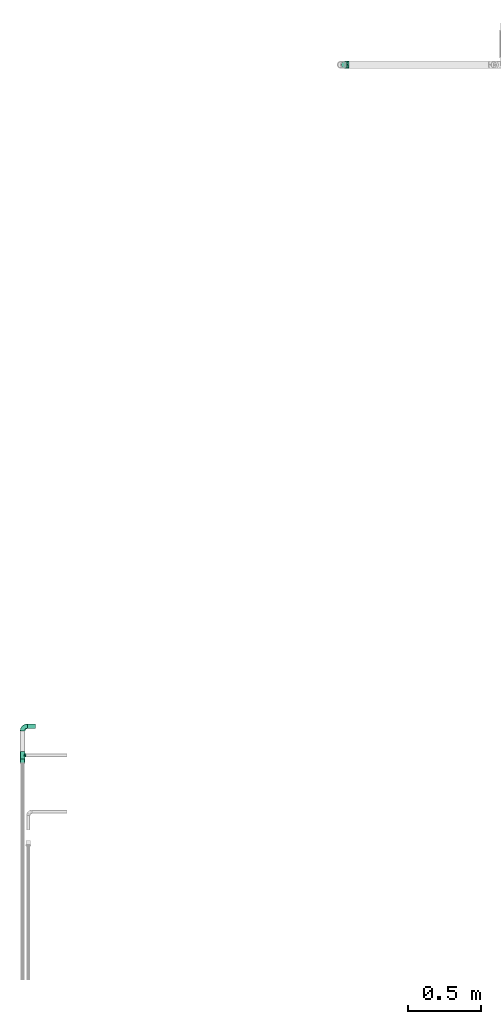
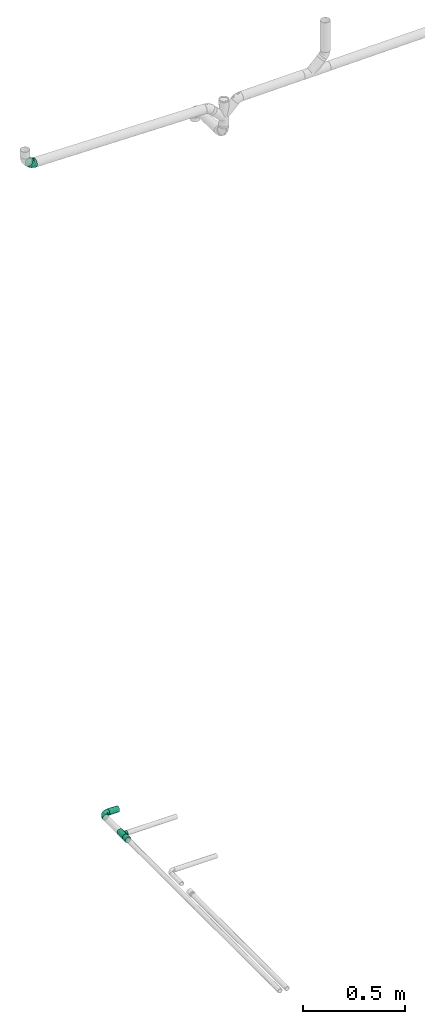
# One storey, part 5 of 13: 3 flow fittings, 2 flow segments.
"""IFC2X3 building model written with IfcOpenShell, lengths in millimetres."""

from ifc_helpers import new_model, entity, si_unit, converted_unit, derived_unit, direction, frame, origin_with_axes, origin_2d_with_axis, place, context, subcontext, project, spatial, hollow_circle, extrude, open_shell, surface_model, source, transform, mapped, type_object, element, save


model = new_model("IFC2X3")

# Units and contexts
model_context = context("Model", 3, precision=0.01, world=frame((0.0, 4.29681676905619e-09, 0.0)), true_north=direction((4.01073788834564e-13, 1.0)))
plan_context = context("Plan", 3, precision=0.01, world=frame((0.0, 4.29681676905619e-09, 0.0)), true_north=direction((4.01073788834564e-13, 1.0)))
body_context = subcontext(model_context, "Body", "Model", "MODEL_VIEW")
ifc_project = project(units=[converted_unit("PLANEANGLEUNIT", "DEGREE", entity("IfcPositiveLengthMeasure", 0.0174532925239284), si_unit("PLANEANGLEUNIT", "RADIAN"), dimensions=[0, 0, 0, 0, 0, 0, 0]), si_unit("AREAUNIT", "SQUARE_METRE"), si_unit("LENGTHUNIT", "METRE", prefix="MILLI"), si_unit("MASSUNIT", "GRAM", prefix="KILO"), si_unit("POWERUNIT", "WATT"), si_unit("PRESSUREUNIT", "PASCAL", prefix="KILO"), si_unit("FORCEUNIT", "NEWTON", prefix="KILO"), si_unit("ELECTRICVOLTAGEUNIT", "VOLT"), si_unit("ELECTRICCURRENTUNIT", "AMPERE"), si_unit("THERMODYNAMICTEMPERATUREUNIT", "DEGREE_CELSIUS"), si_unit("TIMEUNIT", "SECOND"), si_unit("VOLUMEUNIT", "CUBIC_METRE"), derived_unit("LINEARVELOCITYUNIT", [(si_unit("LENGTHUNIT", "METRE"), 1), (si_unit("TIMEUNIT", "SECOND"), -1)]), derived_unit("VOLUMETRICFLOWRATEUNIT", [(si_unit("VOLUMEUNIT", "CUBIC_METRE"), 1), (si_unit("TIMEUNIT", "SECOND"), -1)]), derived_unit("THERMALTRANSMITTANCEUNIT", [(si_unit("POWERUNIT", "WATT"), 1), (si_unit("THERMODYNAMICTEMPERATUREUNIT", "KELVIN"), -1), (si_unit("AREAUNIT", "SQUARE_METRE"), -1)]), derived_unit("SOUNDPRESSUREUNIT", [(si_unit("PRESSUREUNIT", "PASCAL"), 1)])], contexts=[model_context, plan_context])

# Site, building, storey
site_placement = place(None, frame((0.0, -4.29681676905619e-09, 0.0), z_axis=(0.0, 0.0, 1.0), x_axis=(1.0, 0.0, 0.0)))
site = spatial("IfcSite", under=ifc_project, at=site_placement, Name="ENGM", CompositionType="ELEMENT")
building_placement = place(site_placement, frame((0.0, 4.29681676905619e-09, 0.0), z_axis=(0.0, 0.0, 1.0), x_axis=(1.0, 0.0, 0.0)))
building = spatial("IfcBuilding", under=site, at=building_placement, Name="TI", CompositionType="ELEMENT")
storey_placement = place(building_placement, frame((0.0, 0.0, 210900.0), z_axis=(0.0, 0.0, 1.0), x_axis=(1.0, 0.0, 0.0)))
storey = spatial("IfcBuildingStorey", under=building, at=storey_placement, Name="Nivå F", CompositionType="ELEMENT", Elevation=210900.0)

# Flow fittings
pipe_fitting_type_1 = type_object("IfcPipeFittingType", Name="magi_pipe_fe_tee_centric_90_NOR", PredefinedType="JUNCTION")
shared_shape_1 = source(origin_with_axes(), body_context, "Body", "SurfaceModel", [
    surface_model("IfcShellBasedSurfaceModel", [(-26.8, -14.63583, -8.45), (-26.8, -16.32415, 4.37404), (-26.8, 0.0, -16.9), (-26.8, 8.45, -14.63583), (-26.8, 4.37404, -16.32415), (-26.8, 14.63583, -8.45), (-26.8, 16.32415, -4.37404), (-26.8, 11.9501, -11.9501), (-26.8, 8.45, 14.63583), (-26.8, -4.37404, -16.32415), (-26.8, -8.45, -14.63583), (-26.8, -11.9501, -11.9501), (-26.8, -16.32415, -4.37404), (-26.8, -16.9, 0.0), (-26.8, 16.32415, 4.37404), (-26.8, 14.63583, 8.45), (-26.8, -8.45, 14.63583), (-26.8, 11.9501, 11.9501), (-26.8, 4.37404, 16.32415), (-26.8, 0.0, 16.9), (-26.8, -11.9501, 11.9501), (-26.8, -14.63583, 8.45), (-26.8, -4.37404, 16.32415), (-26.8, 16.9, 0.0), (26.8, 4.37404, -16.32415), (26.8, -16.32415, -4.37404), (26.8, 0.0, -16.9), (26.8, 14.63583, -8.45), (26.8, 8.45, -14.63583), (26.8, 8.45, 14.63583), (26.8, 11.9501, -11.9501), (26.8, -8.45, -14.63583), (26.8, -4.37404, -16.32415), (26.8, -11.9501, -11.9501), (26.8, -14.63583, -8.45), (26.8, -16.9, 0.0), (26.8, 16.32415, -4.37404), (26.8, 16.32415, 4.37404), (26.8, 14.63583, 8.45), (26.8, -16.32415, 4.37404), (26.8, 11.9501, 11.9501), (26.8, -8.45, 14.63583), (26.8, 4.37404, 16.32415), (26.8, -14.63583, 8.45), (26.8, -11.9501, 11.9501), (26.8, 0.0, 16.9), (26.8, -4.37404, 16.32415), (26.8, 16.9, 0.0), (13.4, -16.9, 0.0), (12.51826, -16.20978, 4.7805), (10.16237, -14.46802, 8.7342), (6.75997, -12.31857, 11.56991), (2.4399, -10.58315, 13.176), (-13.4, -16.9, 0.0), (-12.51876, -16.21016, 4.7792), (-6.76097, -12.31912, 11.56932), (-2.44418, -10.58414, 13.1752), (-10.16446, -14.46949, 8.73177), (2.4399, -10.58315, -13.176), (10.16237, -14.46802, -8.7342), (6.75997, -12.31857, -11.56991), (12.51826, -16.20978, -4.7805), (-2.44418, -10.58414, -13.1752), (-6.76097, -12.31912, -11.56932), (-10.16446, -14.46949, -8.73177), (-12.51876, -16.21016, -4.7792), (9.47523, -25.35, -9.47523), (0.0, -25.35, -13.4), (3.46818, -25.35, -12.94341), (6.7, -25.35, -11.60474), (11.60474, -25.35, -6.7), (12.94341, -25.35, -3.46818), (-12.94341, -25.35, 3.46818), (-12.94341, -25.35, -3.46818), (-3.46818, -25.35, -12.94341), (-9.47523, -25.35, -9.47523), (-6.7, -25.35, -11.60474), (-11.60474, -25.35, -6.7), (-13.4, -25.35, 0.0), (13.4, -25.35, 0.0), (12.94341, -25.35, 3.46818), (11.60474, -25.35, 6.7), (6.7, -25.35, 11.60474), (9.47523, -25.35, 9.47523), (3.46818, -25.35, 12.94341), (-9.47523, -25.35, 9.47523), (-11.60474, -25.35, 6.7), (-6.7, -25.35, 11.60474), (-3.46818, -25.35, 12.94341), (0.0, -25.35, 13.4), (-12.95938, -16.55508, 2.3896), (12.95913, -16.55489, 2.39025), (-0.00214, -10.58364, 13.1756), (12.95913, -16.55489, -2.39025), (-0.00214, -10.58364, -13.1756), (-12.95938, -16.55508, -2.3896)], [open_shell([[[0, 1, 2]], [[3, 4, 5]], [[4, 6, 5]], [[7, 3, 5]], [[8, 4, 2]], [[9, 10, 2]], [[10, 11, 2]], [[12, 13, 0]], [[0, 2, 11]], [[13, 1, 0]], [[8, 6, 4]], [[8, 14, 6]], [[15, 14, 8]], [[2, 16, 8]], [[17, 15, 8]], [[18, 8, 19]], [[20, 16, 21]], [[1, 21, 16]], [[22, 19, 16]], [[16, 2, 1]], [[16, 19, 8]], [[6, 14, 23]], [[24, 25, 26]], [[27, 24, 28]], [[25, 24, 29]], [[27, 28, 30]], [[29, 24, 27]], [[26, 31, 32]], [[26, 33, 31]], [[26, 25, 34]], [[34, 33, 26]], [[35, 25, 29]], [[27, 36, 37]], [[27, 37, 29]], [[29, 37, 38]], [[29, 39, 35]], [[29, 38, 40]], [[41, 29, 42]], [[43, 41, 44]], [[41, 43, 39]], [[41, 45, 46]], [[41, 39, 29]], [[42, 45, 41]], [[36, 47, 37]], [[35, 39, 48]], [[49, 48, 39]], [[39, 43, 49]], [[43, 44, 50]], [[51, 50, 44]], [[52, 51, 44]], [[44, 41, 52]], [[43, 50, 49]], [[53, 54, 1]], [[1, 13, 53]], [[54, 21, 1]], [[55, 56, 20]], [[21, 57, 20]], [[57, 21, 54]], [[20, 57, 55]], [[56, 16, 20]], [[52, 16, 56]], [[19, 46, 45]], [[22, 41, 46]], [[18, 45, 42]], [[38, 37, 14]], [[17, 29, 40]], [[15, 40, 38]], [[42, 29, 8]], [[23, 37, 47]], [[16, 41, 22]], [[22, 46, 19]], [[18, 19, 45]], [[42, 8, 18]], [[8, 29, 17]], [[15, 17, 40]], [[14, 15, 38]], [[37, 23, 14]], [[41, 16, 52]], [[23, 47, 36]], [[27, 30, 7]], [[6, 36, 27]], [[26, 32, 9]], [[4, 28, 24]], [[26, 2, 24]], [[30, 28, 3]], [[10, 32, 31]], [[5, 6, 27]], [[23, 36, 6]], [[27, 7, 5]], [[7, 30, 3]], [[3, 28, 4]], [[2, 4, 24]], [[9, 2, 26]], [[32, 10, 9]], [[31, 58, 10]], [[33, 59, 60]], [[59, 33, 34]], [[60, 58, 33]], [[33, 58, 31]], [[25, 35, 48]], [[25, 61, 34]], [[61, 25, 48]], [[34, 61, 59]], [[62, 63, 11]], [[11, 64, 0]], [[64, 11, 63]], [[62, 11, 10]], [[65, 53, 12]], [[65, 12, 0]], [[12, 53, 13]], [[65, 0, 64]], [[58, 62, 10]], [[66, 67, 68]], [[66, 68, 69]], [[66, 70, 71]], [[67, 66, 72]], [[72, 73, 67]], [[74, 75, 76]], [[74, 67, 75]], [[77, 75, 67]], [[67, 73, 77]], [[73, 72, 78]], [[72, 66, 71]], [[79, 80, 81]], [[81, 82, 71]], [[82, 72, 71]], [[82, 81, 83]], [[72, 82, 84]], [[72, 85, 86]], [[85, 72, 87]], [[72, 88, 87]], [[88, 72, 89]], [[72, 84, 89]], [[71, 79, 81]], [[72, 90, 78]], [[57, 86, 85]], [[72, 86, 54]], [[85, 87, 55]], [[72, 54, 90]], [[90, 53, 78]], [[54, 86, 57]], [[91, 49, 80]], [[55, 88, 56]], [[55, 57, 85]], [[89, 52, 92]], [[55, 87, 88]], [[52, 89, 84]], [[82, 51, 84]], [[50, 83, 81]], [[82, 83, 51]], [[49, 81, 80]], [[83, 50, 51]], [[51, 52, 84]], [[79, 91, 80]], [[49, 50, 81]], [[91, 79, 48]], [[89, 56, 88]], [[92, 56, 89]], [[71, 93, 79]], [[59, 70, 66]], [[71, 70, 61]], [[66, 69, 60]], [[93, 48, 79]], [[61, 70, 59]], [[60, 68, 58]], [[60, 59, 66]], [[67, 62, 94]], [[60, 69, 68]], [[67, 74, 62]], [[95, 78, 53]], [[63, 74, 76]], [[65, 77, 73]], [[95, 65, 73]], [[67, 58, 68]], [[71, 61, 93]], [[74, 63, 62]], [[63, 76, 75]], [[63, 75, 64]], [[64, 75, 77]], [[64, 77, 65]], [[78, 95, 73]], [[94, 58, 67]]])]),
])
flow_fitting_1_placement = place(storey_placement, frame((585266.17776, 571276.94171, -48.6000000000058), z_axis=(0.0, 0.0, 1.0), x_axis=(0.0, 1.0, 0.0)))
element("IfcFlowFitting", 1, at=flow_fitting_1_placement, inside=storey, type_object=pipe_fitting_type_1, Name="magi_pipe_fe_tee_centric_90_NOR", context=body_context, shape_type="MappedRepresentation", body=[
    mapped(shared_shape_1, transform((0.0, 0.0, 0.0), scale=1.0)),
])
pipe_fitting_type_2 = type_object("IfcPipeFittingType", Name="magi_pipe_fe_elbow_short_001", PredefinedType="BEND")
shared_shape_2 = source(origin_with_axes(), body_context, "Body", "SurfaceModel", [
    surface_model("IfcShellBasedSurfaceModel", [(-33.8, 4.37404, -16.32415), (-33.8, 0.0, -16.9), (-33.8, 11.9501, -11.9501), (-33.8, 8.45, -14.63583), (-33.8, 16.32415, -4.37404), (-33.8, 14.63583, -8.45), (-33.8, -14.63583, -8.45), (-33.8, -16.32415, -4.37404), (-33.8, -8.45, 14.63583), (-33.8, -11.9501, -11.9501), (-33.8, -8.45, -14.63583), (-33.8, -4.37404, -16.32415), (-33.8, -16.9, 0.0), (-33.8, -16.32415, 4.37404), (-33.8, 11.9501, 11.9501), (-33.8, 4.37404, 16.32415), (-33.8, 8.45, 14.63583), (-33.8, -14.63583, 8.45), (-33.8, -11.9501, 11.9501), (-33.8, -4.37404, 16.32415), (-33.8, 0.0, 16.9), (-11.9501, 33.8, -11.9501), (-4.37404, 33.8, -16.32415), (-8.45, 33.8, -14.63583), (-14.63583, 33.8, -8.45), (-16.32415, 33.8, -4.37404), (-24.79389, -13.12945, 9.48721), (-22.19287, -9.75018, 12.59315), (-24.09897, -14.97035, 0.0), (-14.93934, -10.76256, 8.5297), (-22.46095, -14.75051, 5.27077), (-24.84007, -6.39063, 15.2048), (-25.81779, -2.23879, 16.61097), (-23.66549, 2.59054, 16.87119), (-6.17382, -7.5455, 0.0), (-13.23888, -11.9251, 4.33236), (-14.39795, -13.04069, 0.0), (-29.23923, 10.23435, 13.77053), (-1.45439, -2.85688, 7.61475), (-0.28326, 0.34872, 10.09509), (-5.74484, -4.04709, 10.4122), (-4.41137, 11.31918, 16.59407), (-8.39727, 3.10034, 15.7812), (-1.72649, 9.1306, 15.53089), (-26.19233, 20.0512, 0.0), (-33.8, 16.9, 0.0), (-28.14518, 17.29657, 4.25857), (-29.58514, 15.86957, 7.00283), (-33.8, 16.32415, 4.37404), (-33.8, 14.63583, 8.45), (-26.05147, 6.6281, 15.96447), (-5.87354, 16.61944, 16.86968), (-12.51807, 12.51807, 16.48937), (-10.06312, 7.38516, 16.81295), (-3.01882, 3.01882, 13.81718), (-13.0571, -4.10169, 14.04018), (-16.82553, -0.15166, 16.38038), (-13.68847, -7.71387, 11.55891), (-10.67958, 26.17414, 14.008), (-12.78295, 18.26924, 15.06066), (-7.30894, 22.89991, 16.09489), (-13.88562, 22.45231, 12.93244), (-18.04944, 15.16501, 14.04434), (-23.11658, 20.08178, 4.02986), (-21.84989, 21.84989, 0.0), (-18.55817, 25.48277, 3.93065), (-17.81434, 18.87373, 11.97104), (-17.39909, 24.75344, 7.64977), (-24.21253, 17.66365, 7.72657), (-6.30846, 29.15138, 15.82987), (-13.95142, 26.94732, 11.03289), (-18.57098, 7.23906, 16.59756), (-16.58335, 4.14122, 16.89279), (-17.96666, 11.46709, 15.63151), (-9.84453, 17.54304, 16.18938), (0.15166, 16.82553, 16.38038), (4.10169, 13.0571, 14.04018), (-8.0212, -7.54413, 7.93275), (1.00345, -2.19508, 4.57414), (5.13203, 3.01004, 5.90201), (-23.27207, 11.47201, 14.23154), (-16.9, 33.8, 0.0), (-20.0512, 26.19233, 0.0), (-14.63583, 33.8, 8.45), (-4.55488, -6.72064, 4.90681), (2.05031, -2.05031, 0.0), (-26.75399, 2.1369, -16.845), (-14.61995, 24.73803, -11.27736), (-28.45274, -13.45335, -9.81895), (-26.00469, 6.63555, -15.96645), (-23.06726, 20.04573, -4.26202), (-24.53586, 11.08096, -14.13417), (-26.72048, 14.00837, -11.05776), (-20.38182, 15.48705, -12.74596), (-15.65186, 19.64213, -13.01327), (-12.03528, 20.66498, -14.67665), (-15.61907, 15.61906, -14.83879), (-25.56551, -15.26206, 0.0), (-24.65452, -15.12934, -5.50955), (-7.35442, -8.31014, -5.65563), (-15.67504, -12.54494, -5.54878), (-24.44989, -10.0967, -12.75976), (-21.23441, -12.53268, -9.15363), (-24.89911, -2.13088, -16.591), (-28.54238, -6.66249, -15.38093), (-18.44386, -7.71663, -13.26957), (-28.64342, 17.44413, -2.89318), (-16.57067, 26.81947, -7.36596), (-17.69055, 27.4263, -3.76405), (-12.89279, -9.7522, -8.66343), (-5.96611, 5.96611, -15.95814), (0.21081, 14.67501, -16.07388), (0.71146, 7.93863, -14.09382), (-20.53709, 20.09345, -8.28985), (0.0, 33.8, -16.9), (-2.1369, 26.75399, -16.845), (-6.89872, 24.58781, -16.02578), (-10.60739, 26.53157, -13.98044), (-21.40218, -5.83237, -15.03047), (-14.67501, -0.21081, -16.07388), (-3.99512, 18.61798, -16.89635), (-9.1383, 9.86148, -16.89041), (-9.99983, 16.02119, -16.39699), (-16.68576, 9.78031, -16.34199), (-27.01915, 16.61158, -7.12979), (-13.80647, -4.26506, -14.17873), (-19.37495, 27.82495, 0.0), (-5.70658, -5.33066, -8.89288), (-12.61842, -6.89393, -11.82233), (-18.84705, 19.14018, -10.96545), (14.75051, 22.46093, 5.27077), (11.9251, 13.23886, 4.33236), (13.0407, 14.39794, 0.0), (10.76256, 14.93932, 8.5297), (13.12946, 24.79387, 9.48721), (9.75019, 22.19285, 12.59315), (14.63584, 33.79998, 8.45), (14.97035, 24.09896, 0.0), (-2.31621, 25.28, 16.85849), (-8.44999, 33.79999, 14.63583), (-11.95009, 33.79999, 11.9501), (6.39064, 24.84006, 15.2048), (8.45001, 33.79999, 14.63583), (-26.50417, 14.06512, 11.08152), (3.84842, 5.86993, 10.70473), (7.5455, 6.17382, 0.0), (5.2416, 1.75428, 2.53265), (8.70457, 7.04946, 3.9918), (8.48521, 8.76698, 7.09294), (-6.79019, -0.28281, -13.8478), (10.09671, 24.44987, -12.75976), (5.83237, 21.40217, -15.03047), (6.6625, 28.54237, -15.38093), (12.53269, 21.2344, -9.15364), (12.54495, 15.67502, -5.54878), (9.7522, 12.89277, -8.66343), (13.45335, 28.45273, -9.81895), (15.12934, 24.6545, -5.50955), (0.16522, 0.41303, -9.71728), (-5.13869, -2.37199, -11.53565), (3.49291, 14.42771, -14.76381), (2.93192, 5.89627, -11.55917), (6.89394, 12.61841, -11.82234), (5.58056, 5.95323, -8.79455), (2.13089, 24.8991, -16.591), (8.31014, 7.35441, -5.65563), (-18.61797, 3.99512, -16.89635), (15.26207, 25.5655, 0.0), (1.70016, -1.28724, -5.09504), (8.45001, 33.79999, -14.63583), (7.71387, 13.68847, 11.55891), (4.37404, 33.8, -16.32415), (-4.37403, 33.79999, 16.32415), (-16.32414, 33.79999, 4.37404), (0.0, 33.8, 16.9), (16.32415, 33.79999, -4.37404), (14.63584, 33.79999, -8.45), (11.95011, 33.79999, -11.9501), (16.32415, 33.79999, 4.37404), (16.90001, 33.79999, 0.0), (11.95011, 33.79999, 11.9501), (4.37404, 33.8, 16.32415), (2.2388, 25.81778, 16.61097)], [open_shell([[[0, 1, 2]], [[3, 0, 2]], [[4, 5, 2]], [[6, 2, 1]], [[2, 7, 8]], [[9, 6, 10]], [[1, 11, 10]], [[12, 13, 7]], [[4, 2, 14]], [[15, 16, 14]], [[15, 14, 8]], [[17, 18, 13]], [[19, 20, 8]], [[18, 8, 7]], [[8, 20, 15]], [[21, 22, 23]], [[21, 24, 25]], [[18, 26, 27]], [[13, 12, 28]], [[29, 26, 30]], [[26, 18, 17]], [[13, 30, 17]], [[27, 8, 18]], [[27, 31, 8]], [[20, 32, 33]], [[34, 35, 36]], [[16, 37, 14]], [[19, 32, 20]], [[38, 39, 40]], [[41, 42, 43]], [[44, 45, 46]], [[47, 48, 49]], [[20, 33, 15]], [[15, 50, 16]], [[51, 52, 53]], [[40, 54, 55]], [[31, 55, 56]], [[57, 55, 27]], [[8, 31, 19]], [[35, 30, 36]], [[58, 59, 60]], [[61, 62, 59]], [[44, 63, 64]], [[65, 64, 63]], [[66, 67, 68]], [[45, 48, 46]], [[58, 60, 69]], [[67, 65, 63]], [[61, 58, 70]], [[13, 28, 30]], [[50, 15, 33]], [[71, 72, 53]], [[73, 50, 71]], [[74, 59, 52]], [[60, 74, 51]], [[55, 31, 27]], [[36, 30, 28]], [[32, 31, 56]], [[57, 27, 29]], [[55, 54, 42]], [[75, 43, 76]], [[77, 40, 57]], [[38, 40, 77]], [[35, 29, 30]], [[38, 78, 79]], [[30, 26, 17]], [[27, 26, 29]], [[71, 50, 33]], [[37, 50, 80]], [[48, 47, 46]], [[68, 67, 63]], [[81, 82, 65]], [[65, 82, 64]], [[83, 67, 70]], [[66, 70, 67]], [[61, 59, 58]], [[73, 62, 80]], [[71, 53, 52]], [[42, 53, 56]], [[51, 53, 41]], [[31, 32, 19]], [[33, 32, 56]], [[39, 54, 40]], [[71, 33, 72]], [[73, 71, 52]], [[59, 73, 52]], [[50, 73, 80]], [[59, 62, 73]], [[33, 56, 72]], [[56, 53, 72]], [[55, 42, 56]], [[43, 42, 54]], [[76, 43, 54]], [[41, 43, 75]], [[51, 41, 75]], [[42, 41, 53]], [[50, 37, 16]], [[46, 68, 63]], [[68, 46, 47]], [[46, 63, 44]], [[35, 34, 84]], [[77, 35, 84]], [[85, 84, 34]], [[77, 57, 29]], [[40, 55, 57]], [[35, 77, 29]], [[38, 77, 84]], [[78, 38, 84]], [[84, 85, 78]], [[79, 39, 38]], [[70, 66, 61]], [[61, 66, 62]], [[51, 74, 52]], [[60, 59, 74]], [[0, 86, 1]], [[24, 21, 87]], [[9, 88, 6]], [[3, 89, 0]], [[64, 90, 44]], [[91, 2, 92]], [[91, 92, 93]], [[94, 95, 96]], [[91, 3, 2]], [[36, 97, 98]], [[98, 7, 6]], [[99, 34, 100]], [[101, 9, 10]], [[100, 98, 102]], [[103, 11, 1]], [[10, 104, 101]], [[102, 101, 105]], [[104, 10, 11]], [[45, 44, 106]], [[107, 108, 25]], [[100, 109, 99]], [[110, 111, 112]], [[25, 24, 107]], [[87, 113, 107]], [[114, 115, 22]], [[22, 115, 116]], [[21, 23, 117]], [[90, 108, 113]], [[104, 103, 118]], [[89, 3, 91]], [[22, 116, 23]], [[118, 103, 119]], [[93, 94, 96]], [[2, 5, 92]], [[120, 121, 122]], [[123, 89, 91]], [[106, 124, 4]], [[117, 23, 116]], [[122, 116, 120]], [[94, 117, 95]], [[88, 98, 6]], [[97, 12, 7]], [[111, 110, 121]], [[118, 125, 105]], [[88, 101, 102]], [[86, 103, 1]], [[109, 100, 102]], [[97, 7, 98]], [[124, 92, 5]], [[91, 93, 96]], [[123, 91, 96]], [[87, 107, 24]], [[108, 64, 126]], [[116, 122, 95]], [[87, 21, 117]], [[108, 81, 25]], [[44, 90, 106]], [[90, 113, 124]], [[108, 90, 64]], [[127, 99, 109]], [[92, 124, 113]], [[5, 4, 124]], [[36, 98, 100]], [[89, 86, 0]], [[116, 115, 120]], [[120, 111, 121]], [[123, 96, 122]], [[119, 121, 110]], [[121, 123, 122]], [[102, 128, 109]], [[128, 127, 109]], [[113, 129, 92]], [[129, 87, 94]], [[129, 94, 93]], [[117, 94, 87]], [[116, 95, 117]], [[122, 96, 95]], [[92, 129, 93]], [[87, 129, 113]], [[108, 107, 113]], [[81, 108, 126]], [[124, 106, 90]], [[45, 106, 4]], [[103, 104, 11]], [[101, 104, 118]], [[101, 88, 9]], [[98, 88, 102]], [[36, 100, 34]], [[105, 125, 128]], [[119, 125, 118]], [[102, 105, 128]], [[118, 105, 101]], [[1, 10, 6]], [[6, 7, 2]], [[14, 48, 4]], [[49, 48, 14]], [[2, 8, 14]], [[13, 18, 7]], [[45, 4, 48]], [[130, 131, 132]], [[133, 134, 135]], [[131, 130, 133]], [[136, 134, 130]], [[130, 132, 137]], [[60, 51, 138]], [[139, 140, 58]], [[140, 70, 58]], [[141, 135, 142]], [[135, 141, 76]], [[143, 80, 62]], [[75, 76, 141]], [[76, 54, 144]], [[130, 134, 133]], [[75, 138, 51]], [[143, 62, 66]], [[143, 37, 80]], [[145, 132, 131]], [[146, 78, 85]], [[85, 145, 146]], [[147, 145, 131]], [[145, 147, 146]], [[148, 131, 133]], [[131, 148, 147]], [[125, 119, 149]], [[150, 151, 152]], [[153, 154, 155]], [[153, 156, 157]], [[158, 127, 159]], [[112, 111, 160]], [[157, 154, 153]], [[161, 162, 163]], [[120, 164, 111]], [[155, 154, 165]], [[162, 151, 150]], [[154, 132, 145]], [[162, 150, 153]], [[111, 164, 151]], [[115, 164, 120]], [[160, 162, 112]], [[166, 121, 119]], [[119, 110, 149]], [[132, 157, 167]], [[155, 163, 162]], [[149, 110, 112]], [[158, 163, 168]], [[149, 112, 161]], [[149, 128, 125]], [[157, 132, 154]], [[154, 145, 165]], [[123, 121, 166]], [[149, 159, 128]], [[168, 127, 158]], [[163, 155, 165]], [[162, 153, 155]], [[168, 163, 165]], [[163, 158, 161]], [[161, 158, 159]], [[112, 162, 161]], [[128, 159, 127]], [[161, 159, 149]], [[150, 152, 169]], [[164, 152, 151]], [[150, 156, 153]], [[111, 151, 160]], [[168, 145, 85]], [[162, 160, 151]], [[145, 168, 165]], [[168, 85, 34]], [[143, 68, 47]], [[143, 66, 68]], [[14, 143, 49]], [[37, 143, 14]], [[138, 69, 60]], [[143, 47, 49]], [[76, 144, 170]], [[39, 79, 144]], [[54, 39, 144]], [[171, 164, 114]], [[164, 115, 114]], [[172, 69, 138]], [[83, 173, 67]], [[172, 139, 69]], [[138, 174, 172]], [[58, 69, 139]], [[67, 173, 65]], [[81, 65, 173]], [[166, 119, 103]], [[86, 89, 166]], [[103, 86, 166]], [[89, 123, 166]], [[140, 173, 83]], [[140, 139, 172]], [[170, 135, 76]], [[140, 83, 70]], [[146, 147, 79]], [[170, 133, 135]], [[144, 79, 148]], [[79, 147, 148]], [[79, 78, 146]], [[148, 170, 144]], [[148, 133, 170]], [[127, 168, 99]], [[164, 171, 152]], [[168, 34, 99]], [[22, 169, 114]], [[22, 21, 175]], [[21, 142, 175]], [[169, 176, 177]], [[169, 171, 114]], [[22, 176, 169]], [[175, 176, 22]], [[175, 178, 179]], [[142, 21, 25]], [[140, 81, 173]], [[81, 140, 142]], [[142, 140, 172]], [[178, 180, 136]], [[178, 175, 180]], [[142, 174, 181]], [[175, 142, 180]], [[172, 174, 142]], [[142, 25, 81]], [[135, 180, 142]], [[141, 142, 181]], [[136, 130, 178]], [[181, 174, 182]], [[134, 136, 180]], [[137, 178, 130]], [[182, 138, 75]], [[182, 141, 181]], [[179, 178, 137]], [[135, 134, 180]], [[138, 182, 174]], [[141, 182, 75]], [[169, 177, 150]], [[156, 177, 176]], [[152, 171, 169]], [[156, 150, 177]], [[176, 175, 157]], [[175, 179, 167]], [[175, 167, 157]], [[157, 156, 176]]])]),
])
flow_fitting_2_placement = place(storey_placement, frame((585266.17776, 571476.94168, -48.6000000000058), z_axis=(0.0, 0.0, 1.0), x_axis=(-1.0, 0.0, 0.0)))
element("IfcFlowFitting", 2, at=flow_fitting_2_placement, inside=storey, type_object=pipe_fitting_type_2, Name="magi_pipe_fe_elbow_short_001", context=body_context, shape_type="MappedRepresentation", body=[
    mapped(shared_shape_2, transform((0.0, 0.0, 0.0), scale=1.0)),
])
pipe_fitting_type_3 = type_object("IfcPipeFittingType", Name="magi_pipe_elbow_short_001", PredefinedType="BEND")
shared_shape_3 = source(origin_with_axes(), body_context, "Body", "SurfaceModel", [
    surface_model("IfcShellBasedSurfaceModel", [(-20.22424, 6.47048, -24.14815), (-20.22424, 0.0, -25.0), (-20.22424, 24.14815, -6.47048), (-20.22424, 12.5, -21.65064), (-20.22424, 21.65064, -12.5), (-20.22424, 17.67767, -17.67767), (-20.22424, -17.67767, -17.67767), (-20.22424, -12.5, -21.65064), (-20.22424, -6.47048, -24.14815), (-20.22424, -21.65064, -12.5), (-20.22424, -24.14815, -6.47048), (-20.22424, -12.5, 21.65064), (-20.22424, -25.0, 0.0), (-20.22424, -24.14815, 6.47048), (-20.22424, 24.14815, 6.47048), (-20.22424, 25.0, 0.0), (-20.22424, 6.47048, 24.14815), (-20.22424, 21.65064, 12.5), (-20.22424, 17.67767, 17.67767), (-20.22424, 12.5, 21.65064), (-20.22424, -21.65064, 12.5), (-20.22424, -17.67767, 17.67767), (-20.22424, -6.47048, 24.14815), (-20.22424, 0.0, 25.0), (14.53702, 14.0604, -25.0), (10.03858, 18.71132, -24.14815), (5.84671, 23.0453, -21.65064), (-0.51505, 29.6227, -12.5), (29.58908, -1.50191, -12.5), (2.24706, 26.76697, -17.67767), (31.32542, -3.2971, 6.47048), (19.03546, 9.40947, -24.14815), (26.82698, 1.35383, -17.67767), (23.22733, 5.0755, -21.65064), (31.91765, -3.90941, 0.0), (31.32542, -3.2971, -6.47048), (-2.25138, 31.41789, -6.47048), (5.84671, 23.0453, 21.65064), (-2.84361, 32.0302, 0.0), (-2.25138, 31.41789, 6.47048), (-0.51505, 29.6227, 12.5), (10.03858, 18.71132, 24.14815), (2.24706, 26.76697, 17.67767), (29.58908, -1.50191, 12.5), (23.22733, 5.0755, 21.65064), (26.82698, 1.35383, 17.67767), (19.03546, 9.40947, 24.14815), (14.53702, 14.0604, 25.0), (-9.69847, -9.19065, 22.86046), (-5.23761, -14.15187, 19.3094), (2.56471, -6.34069, 22.55877), (-7.62941, -19.11779, 14.65253), (18.77512, -8.43755, 14.65253), (-7.11247, -2.41653, 24.67279), (-9.19675, 10.40135, 23.36423), (-2.27927, 5.635, 24.90797), (-12.2662, 3.44991, 24.84556), (4.41807, 11.57749, 24.61789), (-4.22873, -21.66922, 8.71306), (6.2942, -15.56104, 13.98696), (13.36075, 0.13646, 22.86046), (-10.0272, 24.79005, 10.24171), (-10.55878, 20.97013, 15.76419), (-6.90158, 17.06265, 20.38655), (2.53121, -21.02858, 4.53817), (12.5538, -16.99605, 4.53817), (7.28086, -18.00033, 8.92555), (-6.16279, -22.26385, 0.0), (-6.66707, -23.33816, 4.55945), (20.74358, -12.3269, 4.53328), (18.10457, -12.63575, 8.71306), (-9.87338, 26.63546, 5.23705), (6.79242, 3.20779, 24.67279), (13.60349, -6.53093, 19.3094), (7.89866, -19.52771, 0.0), (0.91234, 14.87569, 23.32132), (19.90816, -11.71856, 0.0), (-10.84994, 26.8241, 0.0), (4.12544, -10.19925, 20.04685), (-7.11247, -2.41653, -24.67279), (12.80019, -16.87494, -4.53817), (2.79251, -20.94434, -4.53817), (7.28086, -18.00033, -8.92555), (6.79242, 3.20779, -24.67279), (-11.22464, 5.25025, -24.61789), (-6.9894, 22.41389, -15.76419), (13.60349, -6.53093, -19.3094), (-10.0272, 24.79005, -10.24171), (18.10457, -12.63575, -8.71306), (-11.42073, 26.00958, -5.23705), (-0.62073, 13.87022, -23.36423), (-6.34035, -23.28194, -4.53328), (-4.22873, -21.66922, -8.71306), (-10.99774, 10.05825, -23.32132), (-7.62941, -19.11779, -14.65253), (6.2942, -15.56104, -13.98696), (-5.23761, -14.15187, -19.3094), (4.12544, -10.19925, -20.04685), (-9.69847, -9.19065, -22.86046), (2.56471, -6.34069, -22.55877), (13.36075, 0.13646, -22.86046), (-2.27927, 5.635, -24.90797), (-6.90158, 17.06265, -20.38655), (21.01751, -12.14017, -4.55945), (6.41838, 11.00754, -24.84556), (18.77512, -8.43755, -14.65253)], [open_shell([[[0, 1, 2]], [[3, 0, 2]], [[2, 4, 5]], [[3, 2, 5]], [[6, 2, 1]], [[7, 6, 8]], [[6, 1, 8]], [[9, 10, 6]], [[11, 6, 10]], [[10, 12, 13]], [[2, 6, 11]], [[14, 15, 16]], [[17, 14, 18]], [[14, 16, 19]], [[18, 14, 19]], [[11, 16, 15]], [[20, 21, 13]], [[11, 13, 21]], [[10, 13, 11]], [[11, 22, 16]], [[22, 23, 16]], [[15, 2, 11]], [[24, 25, 26]], [[24, 26, 27]], [[24, 27, 28]], [[27, 26, 29]], [[27, 30, 28]], [[31, 32, 33]], [[32, 31, 28]], [[28, 34, 35]], [[28, 31, 24]], [[28, 30, 34]], [[27, 36, 30]], [[37, 38, 39]], [[37, 39, 40]], [[37, 41, 38]], [[37, 40, 42]], [[38, 41, 30]], [[43, 44, 45]], [[44, 43, 30]], [[30, 46, 44]], [[30, 41, 46]], [[41, 47, 46]], [[38, 30, 36]], [[48, 49, 50]], [[20, 51, 21]], [[11, 21, 49]], [[43, 45, 52]], [[23, 22, 53]], [[22, 11, 48]], [[19, 16, 54]], [[55, 56, 53]], [[23, 56, 16]], [[41, 57, 47]], [[58, 59, 51]], [[44, 46, 60]], [[61, 17, 62]], [[63, 18, 19]], [[64, 65, 66]], [[67, 64, 68]], [[69, 70, 65]], [[61, 71, 14]], [[20, 13, 58]], [[15, 14, 71]], [[14, 17, 61]], [[51, 49, 21]], [[54, 63, 19]], [[58, 66, 59]], [[12, 67, 68]], [[37, 42, 63]], [[47, 57, 72]], [[45, 44, 73]], [[40, 39, 61]], [[72, 46, 47]], [[64, 67, 74]], [[70, 43, 52]], [[75, 57, 41]], [[73, 44, 60]], [[58, 51, 20]], [[76, 69, 65]], [[30, 69, 34]], [[56, 54, 16]], [[71, 61, 39]], [[77, 71, 38]], [[52, 73, 59]], [[49, 78, 50]], [[50, 72, 53]], [[41, 37, 75]], [[50, 60, 72]], [[61, 62, 40]], [[55, 53, 72]], [[42, 40, 62]], [[63, 54, 75]], [[48, 53, 22]], [[17, 18, 62]], [[30, 43, 70]], [[49, 51, 59]], [[78, 59, 73]], [[73, 52, 45]], [[70, 52, 59]], [[18, 63, 62]], [[42, 62, 63]], [[63, 75, 37]], [[55, 75, 54]], [[49, 48, 11]], [[53, 48, 50]], [[72, 60, 46]], [[73, 60, 50]], [[75, 55, 57]], [[57, 55, 72]], [[53, 56, 23]], [[54, 56, 55]], [[64, 66, 58]], [[70, 59, 66]], [[64, 58, 68]], [[65, 64, 74]], [[76, 65, 74]], [[70, 66, 65]], [[58, 13, 68]], [[12, 68, 13]], [[34, 69, 76]], [[30, 70, 69]], [[59, 78, 49]], [[73, 50, 78]], [[38, 71, 39]], [[71, 77, 15]], [[8, 1, 79]], [[80, 81, 82]], [[24, 31, 83]], [[84, 1, 0]], [[4, 85, 5]], [[33, 32, 86]], [[87, 85, 4]], [[28, 35, 88]], [[2, 89, 87]], [[26, 25, 90]], [[91, 92, 81]], [[3, 93, 0]], [[67, 91, 81]], [[92, 94, 95]], [[10, 91, 12]], [[94, 92, 9]], [[6, 7, 96]], [[97, 95, 96]], [[10, 9, 92]], [[6, 94, 9]], [[98, 7, 8]], [[94, 96, 95]], [[99, 79, 83]], [[100, 83, 31]], [[15, 77, 89]], [[80, 76, 74]], [[38, 36, 89]], [[101, 83, 79]], [[29, 26, 102]], [[87, 4, 2]], [[27, 85, 87]], [[98, 96, 7]], [[90, 102, 26]], [[84, 79, 1]], [[102, 90, 93]], [[5, 102, 3]], [[76, 80, 103]], [[24, 104, 25]], [[100, 31, 33]], [[88, 82, 95]], [[105, 86, 32]], [[86, 99, 100]], [[88, 95, 105]], [[99, 98, 79]], [[34, 76, 103]], [[27, 29, 85]], [[104, 90, 25]], [[105, 32, 28]], [[86, 97, 99]], [[104, 83, 101]], [[93, 84, 0]], [[36, 87, 89]], [[96, 94, 6]], [[36, 27, 87]], [[88, 105, 28]], [[86, 105, 95]], [[29, 102, 85]], [[5, 85, 102]], [[102, 93, 3]], [[101, 93, 90]], [[79, 98, 8]], [[96, 98, 99]], [[86, 100, 33]], [[83, 100, 99]], [[93, 101, 84]], [[84, 101, 79]], [[83, 104, 24]], [[90, 104, 101]], [[80, 82, 88]], [[92, 95, 82]], [[80, 88, 103]], [[81, 80, 74]], [[67, 81, 74]], [[92, 82, 81]], [[88, 35, 103]], [[34, 103, 35]], [[12, 91, 67]], [[10, 92, 91]], [[95, 97, 86]], [[96, 99, 97]], [[15, 89, 2]], [[89, 77, 38]]])]),
])
flow_fitting_3_placement = place(storey_placement, frame((587494.15728, 576030.74709, 307.375510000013), z_axis=(0.0, 1.0, 0.0), x_axis=(-0.999861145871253, 0.0, 0.0166640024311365)))
element("IfcFlowFitting", 3, at=flow_fitting_3_placement, inside=storey, type_object=pipe_fitting_type_3, Name="magi_pipe_elbow_short_001", context=body_context, shape_type="MappedRepresentation", body=[
    mapped(shared_shape_3, transform((0.0, 0.0, 0.0), scale=1.0)),
])

# Flow segments
pipe_segment_type = type_object("IfcPipeSegmentType", Name="Stålrør normaltykke", PredefinedType="RIGIDSEGMENT")
shared_shape_4 = source(origin_with_axes(), body_context, "Body", "SweptSolid", [
    extrude(hollow_circle(Radius=16.9, WallThickness=2.0, at=origin_2d_with_axis()), frame((0.0, 0.0, 0.0), z_axis=(1.0, 0.0, 0.0), x_axis=(0.0, 1.0, 0.0)), (0.0, 0.0, 1.0), 28.2),
])
flow_segment_1_placement = place(storey_placement, frame((585266.17776, 571250.14171, -48.6000000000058), z_axis=(0.0, 0.0, 1.0), x_axis=(0.0, -1.0, 0.0)))
element("IfcFlowSegment", 4, at=flow_segment_1_placement, inside=storey, type_object=pipe_segment_type, Name="Stålrør normaltykke", context=body_context, shape_type="MappedRepresentation", body=[
    mapped(shared_shape_4, transform((0.0, 0.0, 0.0), scale=1.0)),
])
shared_shape_5 = source(origin_with_axes(), body_context, "Body", "SweptSolid", [
    extrude(hollow_circle(Radius=16.9, WallThickness=2.0, at=origin_2d_with_axis()), frame((0.0, 0.0, 0.0), z_axis=(1.0, 0.0, 0.0), x_axis=(0.0, 1.0, 0.0)), (0.0, 0.0, 1.0), 56.2),
])
flow_segment_2_placement = place(storey_placement, frame((585299.97774, 571476.9417, -48.6000000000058), z_axis=(0.0, 0.0, 1.0), x_axis=(1.0, 0.0, 0.0)))
element("IfcFlowSegment", 5, at=flow_segment_2_placement, inside=storey, type_object=pipe_segment_type, Name="Stålrør normaltykke", context=body_context, shape_type="MappedRepresentation", body=[
    mapped(shared_shape_5, transform((0.0, 0.0, 0.0), scale=1.0)),
])

save(model, "model.ifc")
